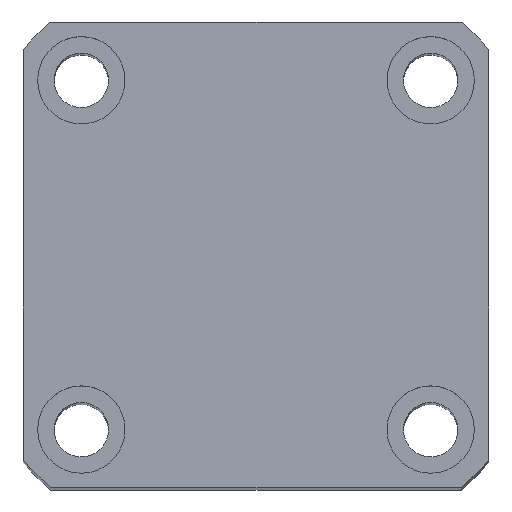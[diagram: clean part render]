
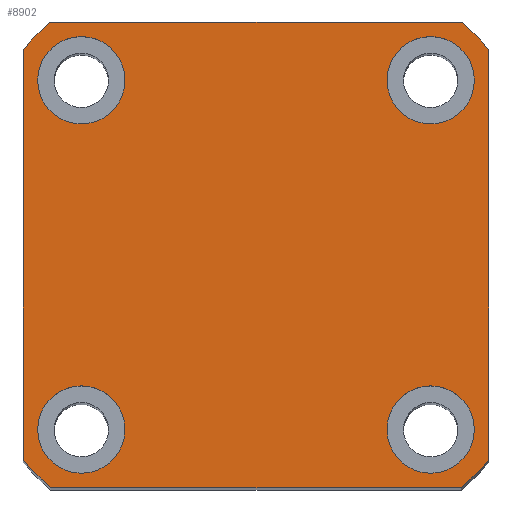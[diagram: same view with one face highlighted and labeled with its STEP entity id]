
A CAD part, top view. The second image highlights one B-rep face of the part: STEP entity #8902.
In plain terms, the highlighted planar face has unit normal (0, 0, 1) as drawn and (1, 0, 0) by its records, which use the part's own axes.
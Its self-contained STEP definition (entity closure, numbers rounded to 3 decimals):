
#82 = EDGE_CURVE ( 'NONE', #4324, #8149, #5280, .T. ) ;
#109 = ORIENTED_EDGE ( 'NONE', *, *, #691, .T. ) ;
#111 = DIRECTION ( 'NONE',  ( 0., 1., 0. ) ) ;
#133 = VERTEX_POINT ( 'NONE', #7203 ) ;
#336 = CARTESIAN_POINT ( 'NONE',  ( 130., 24., -21.166 ) ) ;
#439 = FACE_BOUND ( 'NONE', #7584, .T. ) ;
#464 = CARTESIAN_POINT ( 'NONE',  ( 130., 0., 0. ) ) ;
#465 = CARTESIAN_POINT ( 'NONE',  ( 130., 18., -18. ) ) ;
#514 = CARTESIAN_POINT ( 'NONE',  ( 130., 0., 0. ) ) ;
#516 = DIRECTION ( 'NONE',  ( 1., 0., 0. ) ) ;
#544 = DIRECTION ( 'NONE',  ( 0., 0., -1. ) ) ;
#691 = EDGE_CURVE ( 'NONE', #5888, #7677, #9000, .T. ) ;
#785 = DIRECTION ( 'NONE',  ( 1., 0., 0. ) ) ;
#819 = CARTESIAN_POINT ( 'NONE',  ( 130., 18., 18. ) ) ;
#835 = LINE ( 'NONE', #1774, #2790 ) ;
#842 = EDGE_CURVE ( 'NONE', #10573, #5663, #8189, .T. ) ;
#982 = VECTOR ( 'NONE', #2979, 1000. ) ;
#1085 = VECTOR ( 'NONE', #10545, 1000. ) ;
#1197 = EDGE_CURVE ( 'NONE', #6341, #7328, #6247, .T. ) ;
#1250 = LINE ( 'NONE', #6227, #982 ) ;
#1296 = DIRECTION ( 'NONE',  ( 0., 0., -1. ) ) ;
#1298 = DIRECTION ( 'NONE',  ( 0., 0., -1. ) ) ;
#1332 = AXIS2_PLACEMENT_3D ( 'NONE', #1970, #2114, #2144 ) ;
#1340 = DIRECTION ( 'NONE',  ( 0., 0., -1. ) ) ;
#1404 = ORIENTED_EDGE ( 'NONE', *, *, #9971, .F. ) ;
#1407 = ORIENTED_EDGE ( 'NONE', *, *, #9344, .T. ) ;
#1527 = ORIENTED_EDGE ( 'NONE', *, *, #1723, .F. ) ;
#1581 = DIRECTION ( 'NONE',  ( 1., 0., 0. ) ) ;
#1687 = CARTESIAN_POINT ( 'NONE',  ( 130., 0., 0. ) ) ;
#1723 = EDGE_CURVE ( 'NONE', #6745, #133, #8574, .T. ) ;
#1774 = CARTESIAN_POINT ( 'NONE',  ( 130., 24., -24. ) ) ;
#1970 = CARTESIAN_POINT ( 'NONE',  ( 130., 0., 0. ) ) ;
#2099 = EDGE_CURVE ( 'NONE', #8149, #4324, #4336, .T. ) ;
#2107 = DIRECTION ( 'NONE',  ( 0., 0., -1. ) ) ;
#2114 = DIRECTION ( 'NONE',  ( 1., 0., 0. ) ) ;
#2129 = FACE_OUTER_BOUND ( 'NONE', #9678, .T. ) ;
#2144 = DIRECTION ( 'NONE',  ( 0., 0., -1. ) ) ;
#2168 = EDGE_CURVE ( 'NONE', #7409, #10203, #9886, .T. ) ;
#2201 = ORIENTED_EDGE ( 'NONE', *, *, #5457, .T. ) ;
#2226 = CARTESIAN_POINT ( 'NONE',  ( 130., -24., -21.166 ) ) ;
#2345 = CIRCLE ( 'NONE', #4576, 4.5 ) ;
#2433 = CARTESIAN_POINT ( 'NONE',  ( 130., -18., -22.5 ) ) ;
#2459 = CARTESIAN_POINT ( 'NONE',  ( 130., -18., -13.5 ) ) ;
#2629 = DIRECTION ( 'NONE',  ( 0., -1., 0. ) ) ;
#2714 = ORIENTED_EDGE ( 'NONE', *, *, #7654, .T. ) ;
#2790 = VECTOR ( 'NONE', #111, 1000. ) ;
#2889 = DIRECTION ( 'NONE',  ( 0., 0., -1. ) ) ;
#2898 = AXIS2_PLACEMENT_3D ( 'NONE', #8344, #3443, #9201 ) ;
#2901 = CARTESIAN_POINT ( 'NONE',  ( 130., 24., 21.166 ) ) ;
#2932 = DIRECTION ( 'NONE',  ( 1., 0., 0. ) ) ;
#2979 = DIRECTION ( 'NONE',  ( 0., 0., -1. ) ) ;
#2991 = EDGE_LOOP ( 'NONE', ( #6160, #1527 ) ) ;
#3181 = CIRCLE ( 'NONE', #4830, 32. ) ;
#3339 = ORIENTED_EDGE ( 'NONE', *, *, #2099, .F. ) ;
#3412 = AXIS2_PLACEMENT_3D ( 'NONE', #819, #785, #7276 ) ;
#3427 = CARTESIAN_POINT ( 'NONE',  ( 130., 18., 22.5 ) ) ;
#3443 = DIRECTION ( 'NONE',  ( 1., 0., 0. ) ) ;
#3472 = AXIS2_PLACEMENT_3D ( 'NONE', #10436, #5481, #544 ) ;
#3718 = AXIS2_PLACEMENT_3D ( 'NONE', #7358, #7324, #7217 ) ;
#4042 = CIRCLE ( 'NONE', #3472, 4.5 ) ;
#4277 = CARTESIAN_POINT ( 'NONE',  ( 130., -18., -18. ) ) ;
#4324 = VERTEX_POINT ( 'NONE', #9067 ) ;
#4336 = CIRCLE ( 'NONE', #6771, 4.5 ) ;
#4576 = AXIS2_PLACEMENT_3D ( 'NONE', #5442, #516, #6267 ) ;
#4642 = CARTESIAN_POINT ( 'NONE',  ( 130., -18., 13.5 ) ) ;
#4765 = CARTESIAN_POINT ( 'NONE',  ( 130., 21.166, -24. ) ) ;
#4830 = AXIS2_PLACEMENT_3D ( 'NONE', #514, #6265, #1340 ) ;
#4841 = AXIS2_PLACEMENT_3D ( 'NONE', #464, #6215, #1296 ) ;
#5071 = CARTESIAN_POINT ( 'NONE',  ( 130., 18., -13.5 ) ) ;
#5280 = CIRCLE ( 'NONE', #3412, 4.5 ) ;
#5335 = CARTESIAN_POINT ( 'NONE',  ( 130., 18., 18. ) ) ;
#5422 = VERTEX_POINT ( 'NONE', #2901 ) ;
#5442 = CARTESIAN_POINT ( 'NONE',  ( 130., -18., 18. ) ) ;
#5449 = EDGE_CURVE ( 'NONE', #7677, #7409, #1250, .T. ) ;
#5457 = EDGE_CURVE ( 'NONE', #5422, #10012, #3181, .T. ) ;
#5473 = CIRCLE ( 'NONE', #2898, 32. ) ;
#5481 = DIRECTION ( 'NONE',  ( 1., 0., 0. ) ) ;
#5553 = AXIS2_PLACEMENT_3D ( 'NONE', #7119, #7055, #7151 ) ;
#5663 = VERTEX_POINT ( 'NONE', #2433 ) ;
#5748 = AXIS2_PLACEMENT_3D ( 'NONE', #4277, #6540, #7370 ) ;
#5888 = VERTEX_POINT ( 'NONE', #10494 ) ;
#5900 = CARTESIAN_POINT ( 'NONE',  ( 130., 24., 24. ) ) ;
#5912 = CARTESIAN_POINT ( 'NONE',  ( 130., -24., 21.166 ) ) ;
#6013 = AXIS2_PLACEMENT_3D ( 'NONE', #465, #6216, #1298 ) ;
#6160 = ORIENTED_EDGE ( 'NONE', *, *, #10389, .F. ) ;
#6178 = CARTESIAN_POINT ( 'NONE',  ( 130., -18., 22.5 ) ) ;
#6215 = DIRECTION ( 'NONE',  ( 1., 0., 0. ) ) ;
#6216 = DIRECTION ( 'NONE',  ( 1., 0., 0. ) ) ;
#6223 = FACE_BOUND ( 'NONE', #9376, .T. ) ;
#6227 = CARTESIAN_POINT ( 'NONE',  ( 130., -24., 24. ) ) ;
#6247 = CIRCLE ( 'NONE', #5553, 4.5 ) ;
#6265 = DIRECTION ( 'NONE',  ( 1., 0., 0. ) ) ;
#6267 = DIRECTION ( 'NONE',  ( 0., 0., -1. ) ) ;
#6341 = VERTEX_POINT ( 'NONE', #6178 ) ;
#6442 = VECTOR ( 'NONE', #2629, 1000. ) ;
#6535 = ORIENTED_EDGE ( 'NONE', *, *, #8252, .T. ) ;
#6540 = DIRECTION ( 'NONE',  ( 1., 0., 0. ) ) ;
#6721 = FACE_BOUND ( 'NONE', #2991, .T. ) ;
#6745 = VERTEX_POINT ( 'NONE', #5071 ) ;
#6771 = AXIS2_PLACEMENT_3D ( 'NONE', #5335, #2932, #2889 ) ;
#7055 = DIRECTION ( 'NONE',  ( 1., 0., 0. ) ) ;
#7119 = CARTESIAN_POINT ( 'NONE',  ( 130., -18., 18. ) ) ;
#7151 = DIRECTION ( 'NONE',  ( 0., 0., -1. ) ) ;
#7173 = ORIENTED_EDGE ( 'NONE', *, *, #7655, .T. ) ;
#7203 = CARTESIAN_POINT ( 'NONE',  ( 130., 18., -22.5 ) ) ;
#7217 = DIRECTION ( 'NONE',  ( 0., 0., -1. ) ) ;
#7276 = DIRECTION ( 'NONE',  ( 0., 0., -1. ) ) ;
#7324 = DIRECTION ( 'NONE',  ( 1., 0., 0. ) ) ;
#7328 = VERTEX_POINT ( 'NONE', #4642 ) ;
#7358 = CARTESIAN_POINT ( 'NONE',  ( 130., 18., -18. ) ) ;
#7370 = DIRECTION ( 'NONE',  ( 0., 0., -1. ) ) ;
#7409 = VERTEX_POINT ( 'NONE', #2226 ) ;
#7434 = CARTESIAN_POINT ( 'NONE',  ( 130., -21.166, -24. ) ) ;
#7584 = EDGE_LOOP ( 'NONE', ( #10685, #3339 ) ) ;
#7654 = EDGE_CURVE ( 'NONE', #9021, #8741, #5473, .T. ) ;
#7655 = EDGE_CURVE ( 'NONE', #10203, #9021, #835, .T. ) ;
#7677 = VERTEX_POINT ( 'NONE', #5912 ) ;
#8075 = ORIENTED_EDGE ( 'NONE', *, *, #5449, .T. ) ;
#8149 = VERTEX_POINT ( 'NONE', #3427 ) ;
#8189 = CIRCLE ( 'NONE', #5748, 4.5 ) ;
#8208 = ORIENTED_EDGE ( 'NONE', *, *, #842, .F. ) ;
#8252 = EDGE_CURVE ( 'NONE', #8741, #5422, #10152, .T. ) ;
#8344 = CARTESIAN_POINT ( 'NONE',  ( 130., 0., 0. ) ) ;
#8406 = FACE_BOUND ( 'NONE', #9963, .T. ) ;
#8574 = CIRCLE ( 'NONE', #3718, 4.5 ) ;
#8741 = VERTEX_POINT ( 'NONE', #336 ) ;
#8797 = CARTESIAN_POINT ( 'NONE',  ( 130., 21.166, 24. ) ) ;
#8880 = ORIENTED_EDGE ( 'NONE', *, *, #1197, .F. ) ;
#8902 = ADVANCED_FACE ( 'NONE', ( #8406, #6223, #6721, #439, #2129 ), #9495, .T. ) ;
#8926 = LINE ( 'NONE', #5900, #6442 ) ;
#9000 = CIRCLE ( 'NONE', #1332, 32. ) ;
#9021 = VERTEX_POINT ( 'NONE', #4765 ) ;
#9067 = CARTESIAN_POINT ( 'NONE',  ( 130., 18., 13.5 ) ) ;
#9201 = DIRECTION ( 'NONE',  ( 0., 0., -1. ) ) ;
#9291 = ORIENTED_EDGE ( 'NONE', *, *, #9987, .F. ) ;
#9344 = EDGE_CURVE ( 'NONE', #10012, #5888, #8926, .T. ) ;
#9376 = EDGE_LOOP ( 'NONE', ( #1404, #8880 ) ) ;
#9495 = PLANE ( 'NONE',  #4841 ) ;
#9678 = EDGE_LOOP ( 'NONE', ( #7173, #2714, #6535, #2201, #1407, #109, #8075, #10226 ) ) ;
#9761 = CARTESIAN_POINT ( 'NONE',  ( 130., 24., 24. ) ) ;
#9886 = CIRCLE ( 'NONE', #10148, 32. ) ;
#9963 = EDGE_LOOP ( 'NONE', ( #9291, #8208 ) ) ;
#9971 = EDGE_CURVE ( 'NONE', #7328, #6341, #2345, .T. ) ;
#9987 = EDGE_CURVE ( 'NONE', #5663, #10573, #4042, .T. ) ;
#10012 = VERTEX_POINT ( 'NONE', #8797 ) ;
#10148 = AXIS2_PLACEMENT_3D ( 'NONE', #1687, #1581, #2107 ) ;
#10152 = LINE ( 'NONE', #9761, #1085 ) ;
#10203 = VERTEX_POINT ( 'NONE', #7434 ) ;
#10226 = ORIENTED_EDGE ( 'NONE', *, *, #2168, .T. ) ;
#10389 = EDGE_CURVE ( 'NONE', #133, #6745, #10466, .T. ) ;
#10436 = CARTESIAN_POINT ( 'NONE',  ( 130., -18., -18. ) ) ;
#10466 = CIRCLE ( 'NONE', #6013, 4.5 ) ;
#10494 = CARTESIAN_POINT ( 'NONE',  ( 130., -21.166, 24. ) ) ;
#10545 = DIRECTION ( 'NONE',  ( 0., 0., 1. ) ) ;
#10573 = VERTEX_POINT ( 'NONE', #2459 ) ;
#10685 = ORIENTED_EDGE ( 'NONE', *, *, #82, .F. ) ;
